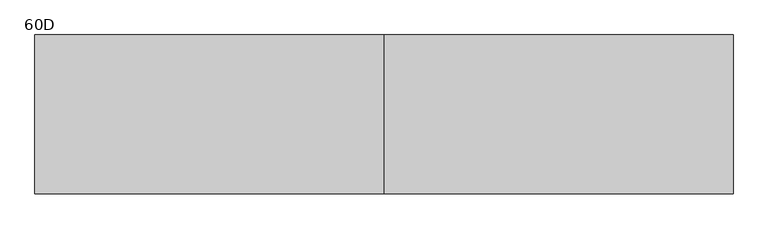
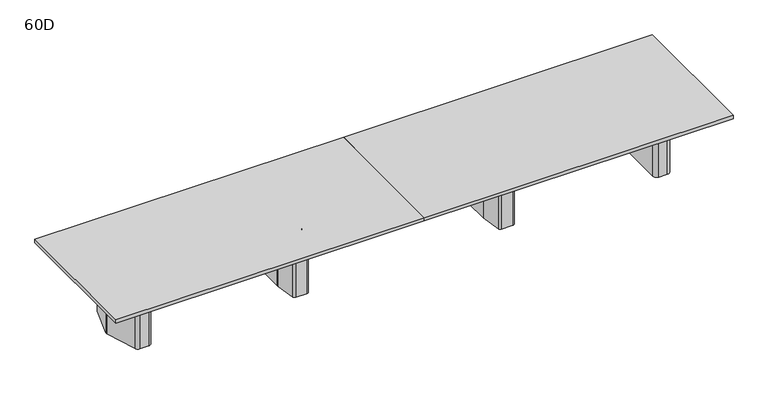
"""IFC4 building model written with IfcOpenShell, lengths in millimetres: furniture geometry, Coalesse_AM_Table_Conference_ETable2_Rectangular_22ft_FourBase : 60D."""

from ifc_helpers import new_model, si_unit, point, frame, frame_2d, origin, origin_with_axes, place, context, project, spatial, polyline, circle_curve, trimmed, segment, composite_curve, outline, extrude, source, transform, mapped, element, save
from ifc_brep_helpers import plane_surface, cylinder_surface, revolved_surface, advanced_brep


def furniture_60d_1b9e8316(model_context):
    return source(origin(), model_context, "Body", "SolidModel", [
        advanced_brep(
        [(1178.6357815, 381.0, 698.5), (1056.5642185, 381.0, 698.5), (1031.4114006, 359.1349332, 698.5), (1000.3721821, 138.2753661, 698.5), (1000.125, 134.740433, 698.5), (1000.125, -134.7404196, 698.5), (1000.3721537, -138.2751502, 698.5), (1031.4095605, -359.1347306, 698.5), (1056.5624068, -381.0, 698.5), (1178.6375932, -381.0, 698.5), (1203.7904395, -359.1347306, 698.5), (1234.8278463, -138.2751502, 698.5), (1235.075, -134.7404196, 698.5), (1235.075, 134.740433, 698.5), (1234.8278179, 138.2753661, 698.5), (1203.7885994, 359.1349332, 698.5), (1143.0, 314.325, 698.5), (1168.4, 288.925, 698.5), (1168.4, -288.925, 698.5), (1143.0, -314.325, 698.5), (1092.2, -314.325, 698.5), (1066.8, -288.925, 698.5), (1066.8, 288.925, 698.5), (1092.2, 314.325, 698.5), (1178.6357815, 381.0, 3.175), (1203.7885994, 359.1349332, 3.175), (1234.8278179, 138.2753661, 3.175), (1235.075, 134.740433, 3.175), (1235.075, -134.7404196, 3.175), (1234.8278463, -138.2751502, 3.175), (1203.7904395, -359.1347306, 3.175), (1178.6375932, -381.0, 3.175), (1056.5624068, -381.0, 3.175), (1031.4095605, -359.1347306, 3.175), (1000.3721537, -138.2751502, 3.175), (1000.125, -134.7404196, 3.175), (1000.125, 134.740433, 3.175), (1000.3721821, 138.2753661, 3.175), (1031.4114006, 359.1349332, 3.175), (1056.5642185, 381.0, 3.175), (1143.0, 327.025, 3.175), (1092.2, 327.025, 3.175), (1054.1, 288.925, 3.175), (1054.1, -288.925, 3.175), (1092.2, -327.025, 3.175), (1143.0, -327.025, 3.175), (1181.1, -288.925, 3.175), (1181.1, 288.925, 3.175), (1143.0, 314.325, 3.175), (1168.4, 288.925, 3.175), (1168.4, -288.925, 3.175), (1143.0, -314.325, 3.175), (1092.2, -314.325, 3.175), (1066.8, -288.925, 3.175), (1066.8, 288.925, 3.175), (1092.2, 314.325, 3.175), (1143.0, 327.025, 0.0), (1181.1, 288.925, 0.0), (1181.1, -288.925, 0.0), (1143.0, -327.025, 0.0), (1092.2, -327.025, 0.0), (1054.1, -288.925, 0.0), (1054.1, 288.925, 0.0), (1092.2, 327.025, 0.0)],
        [
            (0, 1),
            (1, 2, circle_curve(frame((1056.5642185, 355.6, 698.5), z_axis=(0.0, 0.0, 1.0), x_axis=(1.0, 0.0, 0.0)), 25.4)),
            (2, 3),
            (3, 4, circle_curve(frame((1025.525, 134.740433, 698.5), z_axis=(0.0, 0.0, 1.0), x_axis=(1.0, 0.0, 0.0)), 25.4)),
            (4, 5),
            (5, 6, circle_curve(frame((1025.525, -134.7404196, 698.5), z_axis=(0.0, 0.0, 1.0), x_axis=(1.0, 0.0, 0.0)), 25.4)),
            (6, 7),
            (7, 8, circle_curve(frame((1056.5624068, -355.6, 698.5), z_axis=(0.0, 0.0, 1.0), x_axis=(1.0, 0.0, 0.0)), 25.4)),
            (8, 9),
            (9, 10, circle_curve(frame((1178.6375932, -355.6, 698.5), z_axis=(0.0, 0.0, 1.0), x_axis=(1.0, 0.0, 0.0)), 25.4)),
            (10, 11),
            (11, 12, circle_curve(frame((1209.675, -134.7404196, 698.5), z_axis=(0.0, 0.0, 1.0), x_axis=(1.0, 0.0, 0.0)), 25.4)),
            (12, 13),
            (13, 14, circle_curve(frame((1209.675, 134.740433, 698.5), z_axis=(0.0, 0.0, 1.0), x_axis=(1.0, 0.0, 0.0)), 25.4)),
            (14, 15),
            (15, 0, circle_curve(frame((1178.6357815, 355.6, 698.5), z_axis=(0.0, 0.0, 1.0), x_axis=(1.0, 0.0, 0.0)), 25.4)),
            (16, 17, circle_curve(frame((1143.0, 288.925, 698.5), z_axis=(0.0, 0.0, -1.0), x_axis=(1.0, 0.0, 0.0)), 25.4)),
            (17, 18),
            (18, 19, circle_curve(frame((1143.0, -288.925, 698.5), z_axis=(0.0, 0.0, -1.0), x_axis=(1.0, 0.0, 0.0)), 25.4)),
            (19, 20),
            (20, 21, circle_curve(frame((1092.2, -288.925, 698.5), z_axis=(0.0, 0.0, -1.0), x_axis=(1.0, 0.0, 0.0)), 25.4)),
            (21, 22),
            (22, 23, circle_curve(frame((1092.2, 288.925, 698.5), z_axis=(0.0, 0.0, -1.0), x_axis=(1.0, 0.0, 0.0)), 25.4)),
            (23, 16),
            (24, 25, circle_curve(frame((1178.6357815, 355.6, 3.175), z_axis=(0.0, 0.0, -1.0), x_axis=(1.0, 0.0, 0.0)), 25.4)),
            (25, 26),
            (26, 27, circle_curve(frame((1209.675, 134.740433, 3.175), z_axis=(0.0, 0.0, -1.0), x_axis=(1.0, 0.0, 0.0)), 25.4)),
            (27, 28),
            (28, 29, circle_curve(frame((1209.675, -134.7404196, 3.175), z_axis=(0.0, 0.0, -1.0), x_axis=(1.0, 0.0, 0.0)), 25.4)),
            (29, 30),
            (30, 31, circle_curve(frame((1178.6375932, -355.6, 3.175), z_axis=(0.0, 0.0, -1.0), x_axis=(1.0, 0.0, 0.0)), 25.4)),
            (31, 32),
            (32, 33, circle_curve(frame((1056.5624068, -355.6, 3.175), z_axis=(0.0, 0.0, -1.0), x_axis=(1.0, 0.0, 0.0)), 25.4)),
            (33, 34),
            (34, 35, circle_curve(frame((1025.525, -134.7404196, 3.175), z_axis=(0.0, 0.0, -1.0), x_axis=(1.0, 0.0, 0.0)), 25.4)),
            (35, 36),
            (36, 37, circle_curve(frame((1025.525, 134.740433, 3.175), z_axis=(0.0, 0.0, -1.0), x_axis=(1.0, 0.0, 0.0)), 25.4)),
            (37, 38),
            (38, 39, circle_curve(frame((1056.5642185, 355.6, 3.175), z_axis=(0.0, 0.0, -1.0), x_axis=(1.0, 0.0, 0.0)), 25.4)),
            (39, 24),
            (40, 41),
            (41, 42, circle_curve(frame((1092.2, 288.925, 3.175), z_axis=(0.0, 0.0, 1.0), x_axis=(1.0, 0.0, 0.0)), 38.1)),
            (42, 43),
            (43, 44, circle_curve(frame((1092.2, -288.925, 3.175), z_axis=(0.0, 0.0, 1.0), x_axis=(1.0, 0.0, 0.0)), 38.1)),
            (44, 45),
            (45, 46, circle_curve(frame((1143.0, -288.925, 3.175), z_axis=(0.0, 0.0, 1.0), x_axis=(1.0, 0.0, 0.0)), 38.1)),
            (46, 47),
            (47, 40, circle_curve(frame((1143.0, 288.925, 3.175), z_axis=(0.0, 0.0, 1.0), x_axis=(1.0, 0.0, 0.0)), 38.1)),
            (0, 24),
            (39, 1),
            (38, 2),
            (37, 3),
            (36, 4),
            (35, 5),
            (34, 6),
            (33, 7),
            (32, 8),
            (31, 9),
            (30, 10),
            (29, 11),
            (28, 12),
            (27, 13),
            (26, 14),
            (25, 15),
            (16, 48),
            (48, 49, circle_curve(frame((1143.0, 288.925, 3.175), z_axis=(0.0, 0.0, -1.0), x_axis=(1.0, 0.0, 0.0)), 25.4)),
            (49, 17),
            (49, 50),
            (50, 18),
            (50, 51, circle_curve(frame((1143.0, -288.925, 3.175), z_axis=(0.0, 0.0, -1.0), x_axis=(1.0, 0.0, 0.0)), 25.4)),
            (51, 19),
            (51, 52),
            (52, 20),
            (52, 53, circle_curve(frame((1092.2, -288.925, 3.175), z_axis=(0.0, 0.0, -1.0), x_axis=(1.0, 0.0, 0.0)), 25.4)),
            (53, 21),
            (53, 54),
            (54, 22),
            (54, 55, circle_curve(frame((1092.2, 288.925, 3.175), z_axis=(0.0, 0.0, -1.0), x_axis=(1.0, 0.0, 0.0)), 25.4)),
            (55, 23),
            (55, 48),
            (56, 57, circle_curve(frame((1143.0, 288.925, 0.0), z_axis=(0.0, 0.0, -1.0), x_axis=(1.0, 0.0, 0.0)), 38.1)),
            (57, 58),
            (58, 59, circle_curve(frame((1143.0, -288.925, 0.0), z_axis=(0.0, 0.0, -1.0), x_axis=(1.0, 0.0, 0.0)), 38.1)),
            (59, 60),
            (60, 61, circle_curve(frame((1092.2, -288.925, 0.0), z_axis=(0.0, 0.0, -1.0), x_axis=(1.0, 0.0, 0.0)), 38.1)),
            (61, 62),
            (62, 63, circle_curve(frame((1092.2, 288.925, 0.0), z_axis=(0.0, 0.0, -1.0), x_axis=(1.0, 0.0, 0.0)), 38.1)),
            (63, 56),
            (63, 41),
            (40, 56),
            (62, 42),
            (61, 43),
            (60, 44),
            (59, 45),
            (58, 46),
            (57, 47),
        ],
        [
            plane_surface(frame((-406.4, 381.0, 698.5), z_axis=(0.0, 0.0, 1.0), x_axis=(-1.0, 0.0, 0.0))),
            plane_surface(frame((-406.4, 381.0, 3.175), z_axis=(0.0, 0.0, -1.0), x_axis=(1.0, 0.0, 0.0))),
            plane_surface(frame((1178.6357815, 381.0, 698.5), z_axis=(0.0, 1.0, 0.0), x_axis=(0.0, 0.0, -1.0))),
            cylinder_surface(frame((1056.5642185, 355.6, 3.175), z_axis=(0.0, 0.0, 1.0), x_axis=(1.0, 0.0, 0.0)), 25.4),
            plane_surface(frame((1031.4114006, 359.1349332, 698.5), z_axis=(-0.9902684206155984, 0.13917059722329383, 0.0), x_axis=(0.0, 0.0, -1.0))),
            cylinder_surface(frame((1025.525, 134.740433, 3.175), z_axis=(0.0, 0.0, 1.0), x_axis=(1.0, 0.0, 0.0)), 25.4),
            plane_surface(frame((1000.125, 134.740433, 698.5), z_axis=(-1.0, 0.0, 0.0), x_axis=(0.0, 0.0, -1.0))),
            cylinder_surface(frame((1025.525, -134.7404196, 3.175), z_axis=(0.0, 0.0, 1.0), x_axis=(1.0, 0.0, 0.0)), 25.4),
            plane_surface(frame((1000.3721537, -138.2751502, 698.5), z_axis=(-0.9902695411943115, -0.1391626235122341, 0.0), x_axis=(0.0, 0.0, -1.0))),
            cylinder_surface(frame((1056.5624068, -355.6, 3.175), z_axis=(0.0, 0.0, 1.0), x_axis=(1.0, 0.0, 0.0)), 25.4),
            plane_surface(frame((1056.5624068, -381.0, 698.5), z_axis=(0.0, -1.0, 0.0), x_axis=(0.0, 0.0, -1.0))),
            cylinder_surface(frame((1178.6375932, -355.6, 3.175), z_axis=(0.0, 0.0, 1.0), x_axis=(1.0, 0.0, 0.0)), 25.4),
            plane_surface(frame((1203.7904395, -359.1347306, 698.5), z_axis=(0.9902695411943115, -0.1391626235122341, 0.0), x_axis=(0.0, 0.0, -1.0))),
            cylinder_surface(frame((1209.675, -134.7404196, 3.175), z_axis=(0.0, 0.0, 1.0), x_axis=(1.0, 0.0, 0.0)), 25.4),
            plane_surface(frame((1235.075, -134.7404196, 698.5), z_axis=(1.0, 0.0, 0.0), x_axis=(0.0, 0.0, -1.0))),
            cylinder_surface(frame((1209.675, 134.740433, 3.175), z_axis=(0.0, 0.0, 1.0), x_axis=(1.0, 0.0, 0.0)), 25.4),
            plane_surface(frame((1234.8278179, 138.2753661, 698.5), z_axis=(0.9902684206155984, 0.13917059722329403, 0.0), x_axis=(0.0, 0.0, -1.0))),
            cylinder_surface(frame((1178.6357815, 355.6, 3.175), z_axis=(0.0, 0.0, 1.0), x_axis=(1.0, 0.0, 0.0)), 25.4),
            revolved_surface(polyline([(1168.4, 288.925, 3.175), (1168.4, 288.925, 698.5)]), (1143.0, 288.925, 0.0), (0.0, 0.0, -1.0)),
            plane_surface(frame((1168.4, 288.925, 698.5), z_axis=(-1.0, 0.0, 0.0), x_axis=(0.0, 0.0, -1.0))),
            revolved_surface(polyline([(1168.4, -288.925, 3.175), (1168.4, -288.925, 698.5)]), (1143.0, -288.925, 0.0), (0.0, 0.0, -1.0)),
            plane_surface(frame((1143.0, -314.325, 698.5), z_axis=(0.0, 1.0, 0.0), x_axis=(0.0, 0.0, -1.0))),
            revolved_surface(polyline([(1117.6000000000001, -288.925, 3.175), (1117.6000000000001, -288.925, 698.5)]), (1092.2, -288.925, 0.0), (0.0, 0.0, -1.0)),
            plane_surface(frame((1066.8, -288.925, 698.5), z_axis=(1.0, 0.0, 0.0), x_axis=(0.0, 0.0, -1.0))),
            revolved_surface(polyline([(1117.6000000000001, 288.925, 3.175), (1117.6000000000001, 288.925, 698.5)]), (1092.2, 288.925, 0.0), (0.0, 0.0, -1.0)),
            plane_surface(frame((1092.2, 314.325, 698.5), z_axis=(0.0, -1.0, 0.0), x_axis=(0.0, 0.0, -1.0))),
            plane_surface(frame((1066.8, 327.025, 3.175), z_axis=(0.0, 0.0, 1.0), x_axis=(-1.0, 0.0, 0.0))),
            plane_surface(frame((1066.8, 327.025, 0.0), z_axis=(0.0, 0.0, -1.0), x_axis=(1.0, 0.0, 0.0))),
            plane_surface(frame((1143.0, 327.025, 3.175), z_axis=(0.0, 1.0, 0.0), x_axis=(0.0, 0.0, -1.0))),
            cylinder_surface(frame((1092.2, 288.925, 0.0), z_axis=(0.0, 0.0, 1.0), x_axis=(1.0, 0.0, 0.0)), 38.1),
            plane_surface(frame((1054.1, 288.925, 3.175), z_axis=(-1.0, 0.0, 0.0), x_axis=(0.0, 0.0, -1.0))),
            cylinder_surface(frame((1092.2, -288.925, 0.0), z_axis=(0.0, 0.0, 1.0), x_axis=(1.0, 0.0, 0.0)), 38.1),
            plane_surface(frame((1092.2, -327.025, 3.175), z_axis=(0.0, -1.0, 0.0), x_axis=(0.0, 0.0, -1.0))),
            cylinder_surface(frame((1143.0, -288.925, 0.0), z_axis=(0.0, 0.0, 1.0), x_axis=(1.0, 0.0, 0.0)), 38.1),
            plane_surface(frame((1181.1, -288.925, 3.175), z_axis=(1.0, 0.0, 0.0), x_axis=(0.0, 0.0, -1.0))),
            cylinder_surface(frame((1143.0, 288.925, 0.0), z_axis=(0.0, 0.0, 1.0), x_axis=(1.0, 0.0, 0.0)), 38.1),
        ],
        [
            (0, [[1, 2, 3, 4, 5, 6, 7, 8, 9, 10, 11, 12, 13, 14, 15, 16], [17, 18, 19, 20, 21, 22, 23, 24]]),
            (1, [[25, 26, 27, 28, 29, 30, 31, 32, 33, 34, 35, 36, 37, 38, 39, 40], [41, 42, 43, 44, 45, 46, 47, 48]]),
            (2, [[-1, 49, -40, 50]]),
            (3, [[-2, -50, -39, 51]]),
            (4, [[-3, -51, -38, 52]]),
            (5, [[-4, -52, -37, 53]]),
            (6, [[-5, -53, -36, 54]]),
            (7, [[-6, -54, -35, 55]]),
            (8, [[-7, -55, -34, 56]]),
            (9, [[-8, -56, -33, 57]]),
            (10, [[-9, -57, -32, 58]]),
            (11, [[-10, -58, -31, 59]]),
            (12, [[-11, -59, -30, 60]]),
            (13, [[-12, -60, -29, 61]]),
            (14, [[-13, -61, -28, 62]]),
            (15, [[-14, -62, -27, 63]]),
            (16, [[-15, -63, -26, 64]]),
            (17, [[-16, -64, -25, -49]]),
            (18, [[-17, 65, 66, 67]]),
            (19, [[-18, -67, 68, 69]]),
            (20, [[-19, -69, 70, 71]]),
            (21, [[-20, -71, 72, 73]]),
            (22, [[-21, -73, 74, 75]]),
            (23, [[-22, -75, 76, 77]]),
            (24, [[-23, -77, 78, 79]]),
            (25, [[-24, -79, 80, -65]]),
            (26, [[-66, -80, -78, -76, -74, -72, -70, -68]]),
            (27, [[81, 82, 83, 84, 85, 86, 87, 88]]),
            (28, [[-88, 89, -41, 90]]),
            (29, [[-87, 91, -42, -89]]),
            (30, [[-86, 92, -43, -91]]),
            (31, [[-85, 93, -44, -92]]),
            (32, [[-84, 94, -45, -93]]),
            (33, [[-83, 95, -46, -94]]),
            (34, [[-82, 96, -47, -95]]),
            (35, [[-81, -90, -48, -96]]),
        ],
    ),
        advanced_brep(
        [(-1056.5642185, 381.0, 698.5), (-1178.6357815, 381.0, 698.5), (-1203.7885994, 359.1349332, 698.5), (-1234.8278179, 138.2753661, 698.5), (-1235.075, 134.740433, 698.5), (-1235.075, -134.7404196, 698.5), (-1234.8278463, -138.2751502, 698.5), (-1203.7904395, -359.1347306, 698.5), (-1178.6375932, -381.0, 698.5), (-1056.5624068, -381.0, 698.5), (-1031.4095605, -359.1347306, 698.5), (-1000.3721537, -138.2751502, 698.5), (-1000.125, -134.7404196, 698.5), (-1000.125, 134.740433, 698.5), (-1000.3721821, 138.2753661, 698.5), (-1031.4114006, 359.1349332, 698.5), (-1092.2, 314.325, 698.5), (-1066.8, 288.925, 698.5), (-1066.8, -288.925, 698.5), (-1092.2, -314.325, 698.5), (-1143.0, -314.325, 698.5), (-1168.4, -288.925, 698.5), (-1168.4, 288.925, 698.5), (-1143.0, 314.325, 698.5), (-1056.5642185, 381.0, 3.175), (-1031.4114006, 359.1349332, 3.175), (-1000.3721821, 138.2753661, 3.175), (-1000.125, 134.740433, 3.175), (-1000.125, -134.7404196, 3.175), (-1000.3721537, -138.2751502, 3.175), (-1031.4095605, -359.1347306, 3.175), (-1056.5624068, -381.0, 3.175), (-1178.6375932, -381.0, 3.175), (-1203.7904395, -359.1347306, 3.175), (-1234.8278463, -138.2751502, 3.175), (-1235.075, -134.7404196, 3.175), (-1235.075, 134.740433, 3.175), (-1234.8278179, 138.2753661, 3.175), (-1203.7885994, 359.1349332, 3.175), (-1178.6357815, 381.0, 3.175), (-1092.2, 327.025, 3.175), (-1143.0, 327.025, 3.175), (-1181.1, 288.925, 3.175), (-1181.1, -288.925, 3.175), (-1143.0, -327.025, 3.175), (-1092.2, -327.025, 3.175), (-1054.1, -288.925, 3.175), (-1054.1, 288.925, 3.175), (-1092.2, 314.325, 3.175), (-1066.8, 288.925, 3.175), (-1066.8, -288.925, 3.175), (-1092.2, -314.325, 3.175), (-1143.0, -314.325, 3.175), (-1168.4, -288.925, 3.175), (-1168.4, 288.925, 3.175), (-1143.0, 314.325, 3.175), (-1092.2, 327.025, 0.0), (-1054.1, 288.925, 0.0), (-1054.1, -288.925, 0.0), (-1092.2, -327.025, 0.0), (-1143.0, -327.025, 0.0), (-1181.1, -288.925, 0.0), (-1181.1, 288.925, 0.0), (-1143.0, 327.025, 0.0)],
        [
            (0, 1),
            (1, 2, circle_curve(frame((-1178.6357815, 355.6, 698.5), z_axis=(0.0, 0.0, 1.0), x_axis=(1.0, 0.0, 0.0)), 25.4)),
            (2, 3),
            (3, 4, circle_curve(frame((-1209.675, 134.740433, 698.5), z_axis=(0.0, 0.0, 1.0), x_axis=(1.0, 0.0, 0.0)), 25.4)),
            (4, 5),
            (5, 6, circle_curve(frame((-1209.675, -134.7404196, 698.5), z_axis=(0.0, 0.0, 1.0), x_axis=(1.0, 0.0, 0.0)), 25.4)),
            (6, 7),
            (7, 8, circle_curve(frame((-1178.6375932, -355.6, 698.5), z_axis=(0.0, 0.0, 1.0), x_axis=(1.0, 0.0, 0.0)), 25.4)),
            (8, 9),
            (9, 10, circle_curve(frame((-1056.5624068, -355.6, 698.5), z_axis=(0.0, 0.0, 1.0), x_axis=(1.0, 0.0, 0.0)), 25.4)),
            (10, 11),
            (11, 12, circle_curve(frame((-1025.525, -134.7404196, 698.5), z_axis=(0.0, 0.0, 1.0), x_axis=(1.0, 0.0, 0.0)), 25.4)),
            (12, 13),
            (13, 14, circle_curve(frame((-1025.525, 134.740433, 698.5), z_axis=(0.0, 0.0, 1.0), x_axis=(1.0, 0.0, 0.0)), 25.4)),
            (14, 15),
            (15, 0, circle_curve(frame((-1056.5642185, 355.6, 698.5), z_axis=(0.0, 0.0, 1.0), x_axis=(1.0, 0.0, 0.0)), 25.4)),
            (16, 17, circle_curve(frame((-1092.2, 288.925, 698.5), z_axis=(0.0, 0.0, -1.0), x_axis=(1.0, 0.0, 0.0)), 25.4)),
            (17, 18),
            (18, 19, circle_curve(frame((-1092.2, -288.925, 698.5), z_axis=(0.0, 0.0, -1.0), x_axis=(1.0, 0.0, 0.0)), 25.4)),
            (19, 20),
            (20, 21, circle_curve(frame((-1143.0, -288.925, 698.5), z_axis=(0.0, 0.0, -1.0), x_axis=(1.0, 0.0, 0.0)), 25.4)),
            (21, 22),
            (22, 23, circle_curve(frame((-1143.0, 288.925, 698.5), z_axis=(0.0, 0.0, -1.0), x_axis=(1.0, 0.0, 0.0)), 25.4)),
            (23, 16),
            (24, 25, circle_curve(frame((-1056.5642185, 355.6, 3.175), z_axis=(0.0, 0.0, -1.0), x_axis=(1.0, 0.0, 0.0)), 25.4)),
            (25, 26),
            (26, 27, circle_curve(frame((-1025.525, 134.740433, 3.175), z_axis=(0.0, 0.0, -1.0), x_axis=(1.0, 0.0, 0.0)), 25.4)),
            (27, 28),
            (28, 29, circle_curve(frame((-1025.525, -134.7404196, 3.175), z_axis=(0.0, 0.0, -1.0), x_axis=(1.0, 0.0, 0.0)), 25.4)),
            (29, 30),
            (30, 31, circle_curve(frame((-1056.5624068, -355.6, 3.175), z_axis=(0.0, 0.0, -1.0), x_axis=(1.0, 0.0, 0.0)), 25.4)),
            (31, 32),
            (32, 33, circle_curve(frame((-1178.6375932, -355.6, 3.175), z_axis=(0.0, 0.0, -1.0), x_axis=(1.0, 0.0, 0.0)), 25.4)),
            (33, 34),
            (34, 35, circle_curve(frame((-1209.675, -134.7404196, 3.175), z_axis=(0.0, 0.0, -1.0), x_axis=(1.0, 0.0, 0.0)), 25.4)),
            (35, 36),
            (36, 37, circle_curve(frame((-1209.675, 134.740433, 3.175), z_axis=(0.0, 0.0, -1.0), x_axis=(1.0, 0.0, 0.0)), 25.4)),
            (37, 38),
            (38, 39, circle_curve(frame((-1178.6357815, 355.6, 3.175), z_axis=(0.0, 0.0, -1.0), x_axis=(1.0, 0.0, 0.0)), 25.4)),
            (39, 24),
            (40, 41),
            (41, 42, circle_curve(frame((-1143.0, 288.925, 3.175), z_axis=(0.0, 0.0, 1.0), x_axis=(1.0, 0.0, 0.0)), 38.1)),
            (42, 43),
            (43, 44, circle_curve(frame((-1143.0, -288.925, 3.175), z_axis=(0.0, 0.0, 1.0), x_axis=(1.0, 0.0, 0.0)), 38.1)),
            (44, 45),
            (45, 46, circle_curve(frame((-1092.2, -288.925, 3.175), z_axis=(0.0, 0.0, 1.0), x_axis=(1.0, 0.0, 0.0)), 38.1)),
            (46, 47),
            (47, 40, circle_curve(frame((-1092.2, 288.925, 3.175), z_axis=(0.0, 0.0, 1.0), x_axis=(1.0, 0.0, 0.0)), 38.1)),
            (0, 24),
            (39, 1),
            (38, 2),
            (37, 3),
            (36, 4),
            (35, 5),
            (34, 6),
            (33, 7),
            (32, 8),
            (31, 9),
            (30, 10),
            (29, 11),
            (28, 12),
            (27, 13),
            (26, 14),
            (25, 15),
            (16, 48),
            (48, 49, circle_curve(frame((-1092.2, 288.925, 3.175), z_axis=(0.0, 0.0, -1.0), x_axis=(1.0, 0.0, 0.0)), 25.4)),
            (49, 17),
            (49, 50),
            (50, 18),
            (50, 51, circle_curve(frame((-1092.2, -288.925, 3.175), z_axis=(0.0, 0.0, -1.0), x_axis=(1.0, 0.0, 0.0)), 25.4)),
            (51, 19),
            (51, 52),
            (52, 20),
            (52, 53, circle_curve(frame((-1143.0, -288.925, 3.175), z_axis=(0.0, 0.0, -1.0), x_axis=(1.0, 0.0, 0.0)), 25.4)),
            (53, 21),
            (53, 54),
            (54, 22),
            (54, 55, circle_curve(frame((-1143.0, 288.925, 3.175), z_axis=(0.0, 0.0, -1.0), x_axis=(1.0, 0.0, 0.0)), 25.4)),
            (55, 23),
            (55, 48),
            (56, 57, circle_curve(frame((-1092.2, 288.925, 0.0), z_axis=(0.0, 0.0, -1.0), x_axis=(1.0, 0.0, 0.0)), 38.1)),
            (57, 58),
            (58, 59, circle_curve(frame((-1092.2, -288.925, 0.0), z_axis=(0.0, 0.0, -1.0), x_axis=(1.0, 0.0, 0.0)), 38.1)),
            (59, 60),
            (60, 61, circle_curve(frame((-1143.0, -288.925, 0.0), z_axis=(0.0, 0.0, -1.0), x_axis=(1.0, 0.0, 0.0)), 38.1)),
            (61, 62),
            (62, 63, circle_curve(frame((-1143.0, 288.925, 0.0), z_axis=(0.0, 0.0, -1.0), x_axis=(1.0, 0.0, 0.0)), 38.1)),
            (63, 56),
            (63, 41),
            (40, 56),
            (62, 42),
            (61, 43),
            (60, 44),
            (59, 45),
            (58, 46),
            (57, 47),
        ],
        [
            plane_surface(frame((-2641.6, 381.0, 698.5), z_axis=(0.0, 0.0, 1.0), x_axis=(-1.0, 0.0, 0.0))),
            plane_surface(frame((-2641.6, 381.0, 3.175), z_axis=(0.0, 0.0, -1.0), x_axis=(1.0, 0.0, 0.0))),
            plane_surface(frame((-1056.5642185, 381.0, 698.5), z_axis=(0.0, 1.0, 0.0), x_axis=(0.0, 0.0, -1.0))),
            cylinder_surface(frame((-1178.6357815, 355.6, 3.175), z_axis=(0.0, 0.0, 1.0), x_axis=(1.0, 0.0, 0.0)), 25.4),
            plane_surface(frame((-1203.7885994, 359.1349332, 698.5), z_axis=(-0.9902684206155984, 0.13917059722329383, 0.0), x_axis=(0.0, 0.0, -1.0))),
            cylinder_surface(frame((-1209.675, 134.740433, 3.175), z_axis=(0.0, 0.0, 1.0), x_axis=(1.0, 0.0, 0.0)), 25.4),
            plane_surface(frame((-1235.075, 134.740433, 698.5), z_axis=(-1.0, 0.0, 0.0), x_axis=(0.0, 0.0, -1.0))),
            cylinder_surface(frame((-1209.675, -134.7404196, 3.175), z_axis=(0.0, 0.0, 1.0), x_axis=(1.0, 0.0, 0.0)), 25.4),
            plane_surface(frame((-1234.8278463, -138.2751502, 698.5), z_axis=(-0.9902695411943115, -0.1391626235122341, 0.0), x_axis=(0.0, 0.0, -1.0))),
            cylinder_surface(frame((-1178.6375932, -355.6, 3.175), z_axis=(0.0, 0.0, 1.0), x_axis=(1.0, 0.0, 0.0)), 25.4),
            plane_surface(frame((-1178.6375932, -381.0, 698.5), z_axis=(0.0, -1.0, 0.0), x_axis=(0.0, 0.0, -1.0))),
            cylinder_surface(frame((-1056.5624068, -355.6, 3.175), z_axis=(0.0, 0.0, 1.0), x_axis=(1.0, 0.0, 0.0)), 25.4),
            plane_surface(frame((-1031.4095605, -359.1347306, 698.5), z_axis=(0.9902695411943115, -0.1391626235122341, 0.0), x_axis=(0.0, 0.0, -1.0))),
            cylinder_surface(frame((-1025.525, -134.7404196, 3.175), z_axis=(0.0, 0.0, 1.0), x_axis=(1.0, 0.0, 0.0)), 25.4),
            plane_surface(frame((-1000.125, -134.7404196, 698.5), z_axis=(1.0, 0.0, 0.0), x_axis=(0.0, 0.0, -1.0))),
            cylinder_surface(frame((-1025.525, 134.740433, 3.175), z_axis=(0.0, 0.0, 1.0), x_axis=(1.0, 0.0, 0.0)), 25.4),
            plane_surface(frame((-1000.3721821, 138.2753661, 698.5), z_axis=(0.9902684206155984, 0.13917059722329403, 0.0), x_axis=(0.0, 0.0, -1.0))),
            cylinder_surface(frame((-1056.5642185, 355.6, 3.175), z_axis=(0.0, 0.0, 1.0), x_axis=(1.0, 0.0, 0.0)), 25.4),
            revolved_surface(polyline([(-1066.8, 288.925, 3.175), (-1066.8, 288.925, 698.5)]), (-1092.2, 288.925, 0.0), (0.0, 0.0, -1.0)),
            plane_surface(frame((-1066.8, 288.925, 698.5), z_axis=(-1.0, 0.0, 0.0), x_axis=(0.0, 0.0, -1.0))),
            revolved_surface(polyline([(-1066.8, -288.925, 3.175), (-1066.8, -288.925, 698.5)]), (-1092.2, -288.925, 0.0), (0.0, 0.0, -1.0)),
            plane_surface(frame((-1092.2, -314.325, 698.5), z_axis=(0.0, 1.0, 0.0), x_axis=(0.0, 0.0, -1.0))),
            revolved_surface(polyline([(-1117.6, -288.925, 3.175), (-1117.6, -288.925, 698.5)]), (-1143.0, -288.925, 0.0), (0.0, 0.0, -1.0)),
            plane_surface(frame((-1168.4, -288.925, 698.5), z_axis=(1.0, 0.0, 0.0), x_axis=(0.0, 0.0, -1.0))),
            revolved_surface(polyline([(-1117.6, 288.925, 3.175), (-1117.6, 288.925, 698.5)]), (-1143.0, 288.925, 0.0), (0.0, 0.0, -1.0)),
            plane_surface(frame((-1143.0, 314.325, 698.5), z_axis=(0.0, -1.0, 0.0), x_axis=(0.0, 0.0, -1.0))),
            plane_surface(frame((-1168.4, 327.025, 3.175), z_axis=(0.0, 0.0, 1.0), x_axis=(-1.0, 0.0, 0.0))),
            plane_surface(frame((-1168.4, 327.025, 0.0), z_axis=(0.0, 0.0, -1.0), x_axis=(1.0, 0.0, 0.0))),
            plane_surface(frame((-1092.2, 327.025, 3.175), z_axis=(0.0, 1.0, 0.0), x_axis=(0.0, 0.0, -1.0))),
            cylinder_surface(frame((-1143.0, 288.925, 0.0), z_axis=(0.0, 0.0, 1.0), x_axis=(1.0, 0.0, 0.0)), 38.1),
            plane_surface(frame((-1181.1, 288.925, 3.175), z_axis=(-1.0, 0.0, 0.0), x_axis=(0.0, 0.0, -1.0))),
            cylinder_surface(frame((-1143.0, -288.925, 0.0), z_axis=(0.0, 0.0, 1.0), x_axis=(1.0, 0.0, 0.0)), 38.1),
            plane_surface(frame((-1143.0, -327.025, 3.175), z_axis=(0.0, -1.0, 0.0), x_axis=(0.0, 0.0, -1.0))),
            cylinder_surface(frame((-1092.2, -288.925, 0.0), z_axis=(0.0, 0.0, 1.0), x_axis=(1.0, 0.0, 0.0)), 38.1),
            plane_surface(frame((-1054.1, -288.925, 3.175), z_axis=(1.0, 0.0, 0.0), x_axis=(0.0, 0.0, -1.0))),
            cylinder_surface(frame((-1092.2, 288.925, 0.0), z_axis=(0.0, 0.0, 1.0), x_axis=(1.0, 0.0, 0.0)), 38.1),
        ],
        [
            (0, [[1, 2, 3, 4, 5, 6, 7, 8, 9, 10, 11, 12, 13, 14, 15, 16], [17, 18, 19, 20, 21, 22, 23, 24]]),
            (1, [[25, 26, 27, 28, 29, 30, 31, 32, 33, 34, 35, 36, 37, 38, 39, 40], [41, 42, 43, 44, 45, 46, 47, 48]]),
            (2, [[-1, 49, -40, 50]]),
            (3, [[-2, -50, -39, 51]]),
            (4, [[-3, -51, -38, 52]]),
            (5, [[-4, -52, -37, 53]]),
            (6, [[-5, -53, -36, 54]]),
            (7, [[-6, -54, -35, 55]]),
            (8, [[-7, -55, -34, 56]]),
            (9, [[-8, -56, -33, 57]]),
            (10, [[-9, -57, -32, 58]]),
            (11, [[-10, -58, -31, 59]]),
            (12, [[-11, -59, -30, 60]]),
            (13, [[-12, -60, -29, 61]]),
            (14, [[-13, -61, -28, 62]]),
            (15, [[-14, -62, -27, 63]]),
            (16, [[-15, -63, -26, 64]]),
            (17, [[-16, -64, -25, -49]]),
            (18, [[-17, 65, 66, 67]]),
            (19, [[-18, -67, 68, 69]]),
            (20, [[-19, -69, 70, 71]]),
            (21, [[-20, -71, 72, 73]]),
            (22, [[-21, -73, 74, 75]]),
            (23, [[-22, -75, 76, 77]]),
            (24, [[-23, -77, 78, 79]]),
            (25, [[-24, -79, 80, -65]]),
            (26, [[-66, -80, -78, -76, -74, -72, -70, -68]]),
            (27, [[81, 82, 83, 84, 85, 86, 87, 88]]),
            (28, [[-88, 89, -41, 90]]),
            (29, [[-87, 91, -42, -89]]),
            (30, [[-86, 92, -43, -91]]),
            (31, [[-85, 93, -44, -92]]),
            (32, [[-84, 94, -45, -93]]),
            (33, [[-83, 95, -46, -94]]),
            (34, [[-82, 96, -47, -95]]),
            (35, [[-81, -90, -48, -96]]),
        ],
    ),
        extrude(outline(composite_curve([segment(polyline([(2951.1625, 101.7236478), (2951.1625, -97.2761514)]), True, "CONTINUOUS"), segment(trimmed(circle_curve(frame_2d((2913.0625, -97.2761514)), 38.1), [point((2951.1625, -97.2761514))], [point((2949.3991129, -108.7330515))], False, "CARTESIAN"), True, "CONTINUOUS"), segment(polyline([(2949.3991129, -108.7330515), (2890.9745591, -294.0319001)]), True, "CONTINUOUS"), segment(trimmed(circle_curve(frame_2d((2854.6379462, -282.575)), 38.1), [point((2890.9745591, -294.0319001))], [point((2854.6379462, -320.675))], False, "CARTESIAN"), True, "CONTINUOUS"), segment(polyline([(2854.6379462, -320.675), (2787.65, -320.675)]), True, "CONTINUOUS"), segment(trimmed(circle_curve(frame_2d((2787.65, -282.575)), 38.1), [point((2787.65, -320.675))], [point((2749.55, -282.575))], False, "CARTESIAN"), True, "CONTINUOUS"), segment(polyline([(2749.55, -282.575), (2749.55, 282.575)]), True, "CONTINUOUS"), segment(trimmed(circle_curve(frame_2d((2787.65, 282.575)), 38.1), [point((2749.55, 282.575))], [point((2787.65, 320.675))], False, "CARTESIAN"), True, "CONTINUOUS"), segment(polyline([(2787.65, 320.675), (2858.3873998, 320.675)]), True, "CONTINUOUS"), segment(trimmed(circle_curve(frame_2d((2858.3873998, 282.575)), 38.1), [point((2858.3873998, 320.675))], [point((2894.8572049, 293.6005756))], False, "CARTESIAN"), True, "CONTINUOUS"), segment(polyline([(2894.8572049, 293.6005756), (2949.5323051, 112.7492234)]), True, "CONTINUOUS"), segment(trimmed(circle_curve(frame_2d((2913.0625, 101.7236478)), 38.1), [point((2949.5323051, 112.7492234))], [point((2951.1625, 101.7236478))], False, "CARTESIAN"), True, "CONTINUOUS")], self_intersect=False)), origin_with_axes(), (0.0, 0.0, 1.0), 3.175),
        extrude(outline(composite_curve([segment(polyline([(2771.775, 381.0), (2859.9221663, 381.0)]), True, "CONTINUOUS"), segment(trimmed(circle_curve(frame_2d((2859.9221663, 339.725)), 41.275), [point((2859.9221663, 381.0))], [point((2899.2868303, 352.1366418))], False, "CARTESIAN"), True, "CONTINUOUS"), segment(polyline([(2899.2868303, 352.1366418), (3006.4018053, 12.4116418)]), True, "CONTINUOUS"), segment(trimmed(circle_curve(frame_2d((2967.0371413, 0.0)), 41.275), [point((3006.4018053, 12.4116418))], [point((3006.4018053, -12.4116418))], False, "CARTESIAN"), True, "CONTINUOUS"), segment(polyline([(3006.4018053, -12.4116418), (2899.2868303, -352.1366418)]), True, "CONTINUOUS"), segment(trimmed(circle_curve(frame_2d((2859.9221663, -339.725)), 41.275), [point((2899.2868303, -352.1366418))], [point((2859.9221663, -381.0))], False, "CARTESIAN"), True, "CONTINUOUS"), segment(polyline([(2859.9221663, -381.0), (2765.425, -381.0)]), True, "CONTINUOUS"), segment(trimmed(circle_curve(frame_2d((2765.425, -339.725)), 41.275), [point((2765.425, -381.0))], [point((2724.15, -339.725))], False, "CARTESIAN"), True, "CONTINUOUS"), segment(polyline([(2724.15, -339.725), (2724.15, 333.375)]), True, "CONTINUOUS"), segment(trimmed(circle_curve(frame_2d((2771.775, 333.375)), 47.625), [point((2724.15, 333.375))], [point((2771.775, 381.0))], False, "CARTESIAN"), True, "CONTINUOUS")], self_intersect=False), holes=[composite_curve([segment(trimmed(circle_curve(frame_2d((2787.65, -282.575)), 25.4), [point((2762.25, -282.575))], [point((2787.65, -307.975))], True, "CARTESIAN"), True, "CONTINUOUS"), segment(polyline([(2787.65, -307.975), (2854.6379462, -307.975)]), True, "CONTINUOUS"), segment(trimmed(circle_curve(frame_2d((2854.6379462, -282.575)), 25.4), [point((2854.6379462, -307.975))], [point((2878.8623548, -290.2129334))], True, "CARTESIAN"), True, "CONTINUOUS"), segment(polyline([(2878.8623548, -290.2129334), (2937.2869086, -104.9140848)]), True, "CONTINUOUS"), segment(trimmed(circle_curve(frame_2d((2913.0625, -97.2761514)), 25.4), [point((2937.2869086, -104.9140848))], [point((2938.4625, -97.2761514))], True, "CARTESIAN"), True, "CONTINUOUS"), segment(polyline([(2938.4625, -97.2761514), (2938.4625, 101.7236478)]), True, "CONTINUOUS"), segment(trimmed(circle_curve(frame_2d((2913.0625, 101.7236478)), 25.4), [point((2938.4625, 101.7236478))], [point((2937.3757034, 109.0740316))], True, "CARTESIAN"), True, "CONTINUOUS"), segment(polyline([(2937.3757034, 109.0740316), (2882.7006032, 289.9253837)]), True, "CONTINUOUS"), segment(trimmed(circle_curve(frame_2d((2858.3873998, 282.575)), 25.4), [point((2882.7006032, 289.9253837))], [point((2858.3873998, 307.975))], True, "CARTESIAN"), True, "CONTINUOUS"), segment(polyline([(2858.3873998, 307.975), (2787.65, 307.975)]), True, "CONTINUOUS"), segment(trimmed(circle_curve(frame_2d((2787.65, 282.575)), 25.4), [point((2787.65, 307.975))], [point((2762.25, 282.575))], True, "CARTESIAN"), True, "CONTINUOUS"), segment(polyline([(2762.25, 282.575), (2762.25, -282.575)]), True, "CONTINUOUS")], self_intersect=False)]), frame((0.0, 0.0, 3.175), z_axis=(0.0, 0.0, 1.0), x_axis=(1.0, 0.0, 0.0)), (0.0, 0.0, 1.0), 695.325),
        extrude(outline(composite_curve([segment(trimmed(circle_curve(frame_2d((-2924.175, 101.7236478)), 38.1), [point((-2962.275, 101.7236478))], [point((-2960.6448051, 112.7492234))], False, "CARTESIAN"), True, "CONTINUOUS"), segment(polyline([(-2960.6448051, 112.7492234), (-2905.9697049, 293.6005756)]), True, "CONTINUOUS"), segment(trimmed(circle_curve(frame_2d((-2869.4998998, 282.575)), 38.1), [point((-2905.9697049, 293.6005756))], [point((-2869.4998998, 320.675))], False, "CARTESIAN"), True, "CONTINUOUS"), segment(polyline([(-2869.4998998, 320.675), (-2798.7625, 320.675)]), True, "CONTINUOUS"), segment(trimmed(circle_curve(frame_2d((-2798.7625, 282.575)), 38.1), [point((-2798.7625, 320.675))], [point((-2760.6625, 282.575))], False, "CARTESIAN"), True, "CONTINUOUS"), segment(polyline([(-2760.6625, 282.575), (-2760.6625, -282.575)]), True, "CONTINUOUS"), segment(trimmed(circle_curve(frame_2d((-2798.7625, -282.575)), 38.1), [point((-2760.6625, -282.575))], [point((-2798.7625, -320.675))], False, "CARTESIAN"), True, "CONTINUOUS"), segment(polyline([(-2798.7625, -320.675), (-2865.7504462, -320.675)]), True, "CONTINUOUS"), segment(trimmed(circle_curve(frame_2d((-2865.7504462, -282.575)), 38.1), [point((-2865.7504462, -320.675))], [point((-2902.0870591, -294.0319001))], False, "CARTESIAN"), True, "CONTINUOUS"), segment(polyline([(-2902.0870591, -294.0319001), (-2960.5116129, -108.7330515)]), True, "CONTINUOUS"), segment(trimmed(circle_curve(frame_2d((-2924.175, -97.2761514)), 38.1), [point((-2960.5116129, -108.7330515))], [point((-2962.275, -97.2761514))], False, "CARTESIAN"), True, "CONTINUOUS"), segment(polyline([(-2962.275, -97.2761514), (-2962.275, 101.7236478)]), True, "CONTINUOUS")], self_intersect=False)), origin_with_axes(), (0.0, 0.0, 1.0), 3.175),
        extrude(outline(composite_curve([segment(trimmed(circle_curve(frame_2d((-2782.8875, 333.375)), 47.625), [point((-2782.8875, 381.0))], [point((-2735.2625, 333.375))], False, "CARTESIAN"), True, "CONTINUOUS"), segment(polyline([(-2735.2625, 333.375), (-2735.2625, -339.725)]), True, "CONTINUOUS"), segment(trimmed(circle_curve(frame_2d((-2776.5375, -339.725)), 41.275), [point((-2735.2625, -339.725))], [point((-2776.5375, -381.0))], False, "CARTESIAN"), True, "CONTINUOUS"), segment(polyline([(-2776.5375, -381.0), (-2871.0346663, -381.0)]), True, "CONTINUOUS"), segment(trimmed(circle_curve(frame_2d((-2871.0346663, -339.725)), 41.275), [point((-2871.0346663, -381.0))], [point((-2910.3993303, -352.1366418))], False, "CARTESIAN"), True, "CONTINUOUS"), segment(polyline([(-2910.3993303, -352.1366418), (-3017.5143053, -12.4116418)]), True, "CONTINUOUS"), segment(trimmed(circle_curve(frame_2d((-2978.1496413, 0.0)), 41.275), [point((-3017.5143053, -12.4116418))], [point((-3017.5143053, 12.4116418))], False, "CARTESIAN"), True, "CONTINUOUS"), segment(polyline([(-3017.5143053, 12.4116418), (-2910.3993303, 352.1366418)]), True, "CONTINUOUS"), segment(trimmed(circle_curve(frame_2d((-2871.0346663, 339.725)), 41.275), [point((-2910.3993303, 352.1366418))], [point((-2871.0346663, 381.0))], False, "CARTESIAN"), True, "CONTINUOUS"), segment(polyline([(-2871.0346663, 381.0), (-2782.8875, 381.0)]), True, "CONTINUOUS")], self_intersect=False), holes=[composite_curve([segment(polyline([(-2773.3625, -282.575), (-2773.3625, 282.575)]), True, "CONTINUOUS"), segment(trimmed(circle_curve(frame_2d((-2798.7625, 282.575)), 25.4), [point((-2773.3625, 282.575))], [point((-2798.7625, 307.975))], True, "CARTESIAN"), True, "CONTINUOUS"), segment(polyline([(-2798.7625, 307.975), (-2869.4998998, 307.975)]), True, "CONTINUOUS"), segment(trimmed(circle_curve(frame_2d((-2869.4998998, 282.575)), 25.4), [point((-2869.4998998, 307.975))], [point((-2893.8131032, 289.9253837))], True, "CARTESIAN"), True, "CONTINUOUS"), segment(polyline([(-2893.8131032, 289.9253837), (-2948.4882034, 109.0740316)]), True, "CONTINUOUS"), segment(trimmed(circle_curve(frame_2d((-2924.175, 101.7236478)), 25.4), [point((-2948.4882034, 109.0740316))], [point((-2949.575, 101.7236478))], True, "CARTESIAN"), True, "CONTINUOUS"), segment(polyline([(-2949.575, 101.7236478), (-2949.575, -97.2761514)]), True, "CONTINUOUS"), segment(trimmed(circle_curve(frame_2d((-2924.175, -97.2761514)), 25.4), [point((-2949.575, -97.2761514))], [point((-2948.3994086, -104.9140848))], True, "CARTESIAN"), True, "CONTINUOUS"), segment(polyline([(-2948.3994086, -104.9140848), (-2889.9748548, -290.2129334)]), True, "CONTINUOUS"), segment(trimmed(circle_curve(frame_2d((-2865.7504462, -282.575)), 25.4), [point((-2889.9748548, -290.2129334))], [point((-2865.7504462, -307.975))], True, "CARTESIAN"), True, "CONTINUOUS"), segment(polyline([(-2865.7504462, -307.975), (-2798.7625, -307.975)]), True, "CONTINUOUS"), segment(trimmed(circle_curve(frame_2d((-2798.7625, -282.575)), 25.4), [point((-2798.7625, -307.975))], [point((-2773.3625, -282.575))], True, "CARTESIAN"), True, "CONTINUOUS")], self_intersect=False)]), frame((0.0, 0.0, 3.175), z_axis=(0.0, 0.0, 1.0), x_axis=(1.0, 0.0, 0.0)), (0.0, 0.0, 1.0), 695.325),
        extrude(outline(polyline([(3352.8, 762.0), (3352.8, -762.0), (0.0, -762.0), (0.0, 762.0), (3352.8, 762.0)])), frame((0.0, 0.0, 698.5), z_axis=(0.0, 0.0, 1.0), x_axis=(1.0, 0.0, 0.0)), (0.0, 0.0, 1.0), 38.1),
        extrude(outline(polyline([(0.0, 762.0), (0.0, -762.0), (-3352.8, -762.0), (-3352.8, 762.0), (0.0, 762.0)])), frame((0.0, 0.0, 698.5), z_axis=(0.0, 0.0, 1.0), x_axis=(1.0, 0.0, 0.0)), (0.0, 0.0, 1.0), 38.1),
        extrude(outline(polyline([(96.8375, 698.5), (103.1875, 698.5), (103.1875, 476.25), (-103.1875, 476.25), (-103.1875, 698.5), (-96.8375, 698.5), (-96.8375, 482.6), (96.8375, 482.6), (96.8375, 698.5)])), frame((-2735.2625, 0.0, 0.0), z_axis=(1.0, 0.0, 0.0), x_axis=(0.0, 1.0, 0.0)), (0.0, 0.0, 1.0), 5459.4125),
    ])


if __name__ == "__main__":
    model = new_model("IFC4")
    model_context = context("Model", 3, world=origin())
    ifc_project = project(units=[si_unit("LENGTHUNIT", "METRE", prefix="MILLI")], contexts=[model_context])
    site = spatial("IfcSite", under=ifc_project)
    building = spatial("IfcBuilding", under=site)
    placement = place(None, origin())
    furniture_60d_shape = furniture_60d_1b9e8316(model_context)
    element("IfcFurniture", 1, ObjectType="Coalesse_AM_Table_Conference_ETable2_Rectangular_22ft_FourBase : 60D", at=placement, inside=building, context=model_context, shape_type="MappedRepresentation", body=[
        mapped(furniture_60d_shape, transform((0.0, 0.0, 0.0), x_axis=(1.0, 0.0, 0.0), y_axis=(0.0, 1.0, 0.0), z_axis=(0.0, 0.0, 1.0))),
    ])
    save(model, "model.ifc")
